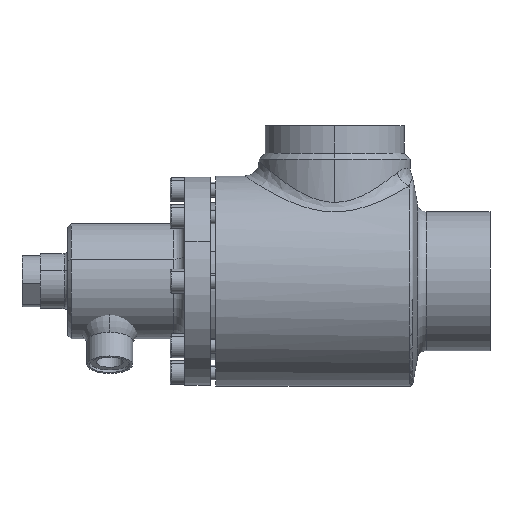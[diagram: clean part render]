
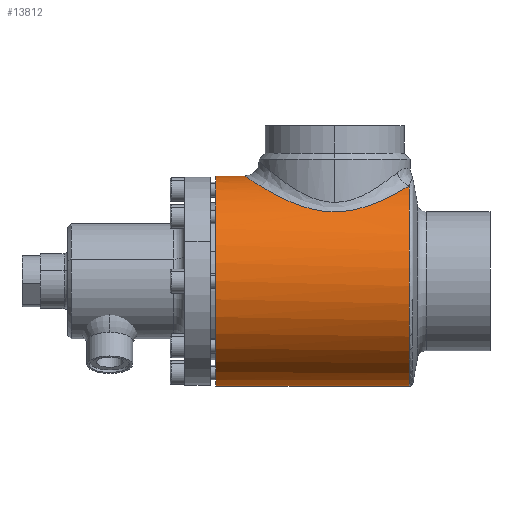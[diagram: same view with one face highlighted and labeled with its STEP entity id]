
A CAD part, left-side view. The second image highlights one B-rep face of the part: STEP entity #13812.
In plain terms, the highlighted cylindrical face has radius 57.5 mm (diameter 115 mm), a partial arc.
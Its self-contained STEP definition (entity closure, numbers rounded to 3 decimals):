
#794 = CARTESIAN_POINT ( 'NONE',  ( 0., 0., -57.5 ) ) ;
#868 = LINE ( 'NONE', #869, #870 ) ;
#869 = CARTESIAN_POINT ( 'NONE',  ( 0., -111., -57.5 ) ) ;
#870 = VECTOR ( 'NONE', #871, 1000. ) ;
#871 = DIRECTION ( 'NONE',  ( 0., 1., 0. ) ) ;
#1278 = CIRCLE ( 'NONE', #1279, 57.5 ) ;
#1279 = AXIS2_PLACEMENT_3D ( 'NONE', #1280, #1281, #1282 ) ;
#1280 = CARTESIAN_POINT ( 'NONE',  ( 0., 0., 0. ) ) ;
#1281 = DIRECTION ( 'NONE',  ( 0., 1., 0. ) ) ;
#1282 = DIRECTION ( 'NONE',  ( 0., 0., 1. ) ) ;
#2484 = CARTESIAN_POINT ( 'NONE',  ( 0., -15.7, 57.5 ) ) ;
#2533 = B_SPLINE_CURVE_WITH_KNOTS ( 'NONE', 3,
 ( #2534, #2535, #2536, #2537, #2538, #2539, #2540, #2541, #2543, #2544, #2545, #2546, #2547, #2548, #2549, #2550, #2551, #2552, #2553, #2554, #2555, #2556, #2557, #2558, #2561, #2562, #2563, #2564, #2565, #2566, #2567, #2568, #2569, #2570, #2571, #2572, #2573, #2574, #2575, #2576, #2577, #2578, #2579, #2580, #2581, #2582, #2583, #2584, #2585, #2586, #2587, #2588, #2589, #2590, #2591, #2592, #2596, #2597, #2598, #2599, #2600, #2601 ),
 .UNSPECIFIED., .F., .F.,
 ( 4, 2, 2, 2, 2, 2, 2, 2, 2, 2, 2, 2, 2, 2, 2, 2, 2, 2, 2, 2, 2, 2, 2, 2, 2, 2, 2, 2, 2, 2, 4 ),
 ( 0., 0.008, 0.016, 0.017, 0.019, 0.023, 0.031, 0.035, 0.039, 0.047, 0.049, 0.05, 0.054, 0.058, 0.06, 0.062, 0.07, 0.074, 0.078, 0.085, 0.089, 0.091, 0.093, 0.101, 0.105, 0.107, 0.109, 0.116, 0.118, 0.12, 0.124 ),
 .UNSPECIFIED. ) ;
#2534 = CARTESIAN_POINT ( 'NONE',  ( -24.174, -105.892, 52.171 ) ) ;
#2535 = CARTESIAN_POINT ( 'NONE',  ( -26.132, -104.39, 51.264 ) ) ;
#2536 = CARTESIAN_POINT ( 'NONE',  ( -27.915, -102.76, 50.305 ) ) ;
#2537 = CARTESIAN_POINT ( 'NONE',  ( -31.195, -99.268, 48.34 ) ) ;
#2538 = CARTESIAN_POINT ( 'NONE',  ( -32.691, -97.405, 47.333 ) ) ;
#2539 = CARTESIAN_POINT ( 'NONE',  ( -34.397, -94.927, 46.079 ) ) ;
#2540 = CARTESIAN_POINT ( 'NONE',  ( -34.73, -94.424, 45.829 ) ) ;
#2541 = CARTESIAN_POINT ( 'NONE',  ( -35.379, -93.402, 45.329 ) ) ;
#2543 = CARTESIAN_POINT ( 'NONE',  ( -35.695, -92.884, 45.08 ) ) ;
#2544 = CARTESIAN_POINT ( 'NONE',  ( -36.613, -91.317, 44.344 ) ) ;
#2545 = CARTESIAN_POINT ( 'NONE',  ( -37.186, -90.253, 43.863 ) ) ;
#2546 = CARTESIAN_POINT ( 'NONE',  ( -38.793, -86.998, 42.466 ) ) ;
#2547 = CARTESIAN_POINT ( 'NONE',  ( -39.716, -84.747, 41.594 ) ) ;
#2548 = CARTESIAN_POINT ( 'NONE',  ( -40.882, -81.225, 40.437 ) ) ;
#2549 = CARTESIAN_POINT ( 'NONE',  ( -41.234, -80.027, 40.077 ) ) ;
#2550 = CARTESIAN_POINT ( 'NONE',  ( -41.862, -77.576, 39.421 ) ) ;
#2551 = CARTESIAN_POINT ( 'NONE',  ( -42.138, -76.319, 39.125 ) ) ;
#2552 = CARTESIAN_POINT ( 'NONE',  ( -42.831, -72.529, 38.37 ) ) ;
#2553 = CARTESIAN_POINT ( 'NONE',  ( -43.12, -69.961, 38.038 ) ) ;
#2554 = CARTESIAN_POINT ( 'NONE',  ( -43.257, -66.692, 37.883 ) ) ;
#2555 = CARTESIAN_POINT ( 'NONE',  ( -43.273, -66.034, 37.864 ) ) ;
#2556 = CARTESIAN_POINT ( 'NONE',  ( -43.282, -64.718, 37.854 ) ) ;
#2557 = CARTESIAN_POINT ( 'NONE',  ( -43.275, -64.063, 37.862 ) ) ;
#2558 = CARTESIAN_POINT ( 'NONE',  ( -43.219, -62.103, 37.926 ) ) ;
#2561 = CARTESIAN_POINT ( 'NONE',  ( -43.137, -60.806, 38.02 ) ) ;
#2562 = CARTESIAN_POINT ( 'NONE',  ( -42.884, -58.229, 38.305 ) ) ;
#2563 = CARTESIAN_POINT ( 'NONE',  ( -42.713, -56.95, 38.496 ) ) ;
#2564 = CARTESIAN_POINT ( 'NONE',  ( -42.391, -55.043, 38.85 ) ) ;
#2565 = CARTESIAN_POINT ( 'NONE',  ( -42.272, -54.408, 38.979 ) ) ;
#2566 = CARTESIAN_POINT ( 'NONE',  ( -42.014, -53.15, 39.257 ) ) ;
#2567 = CARTESIAN_POINT ( 'NONE',  ( -41.875, -52.528, 39.406 ) ) ;
#2568 = CARTESIAN_POINT ( 'NONE',  ( -41.13, -49.446, 40.191 ) ) ;
#2569 = CARTESIAN_POINT ( 'NONE',  ( -40.378, -47.077, 40.957 ) ) ;
#2570 = CARTESIAN_POINT ( 'NONE',  ( -39.022, -43.642, 42.237 ) ) ;
#2571 = CARTESIAN_POINT ( 'NONE',  ( -38.532, -42.517, 42.685 ) ) ;
#2572 = CARTESIAN_POINT ( 'NONE',  ( -37.473, -40.304, 43.618 ) ) ;
#2573 = CARTESIAN_POINT ( 'NONE',  ( -36.908, -39.223, 44.098 ) ) ;
#2574 = CARTESIAN_POINT ( 'NONE',  ( -35.115, -36.073, 45.559 ) ) ;
#2575 = CARTESIAN_POINT ( 'NONE',  ( -33.785, -34.085, 46.562 ) ) ;
#2576 = CARTESIAN_POINT ( 'NONE',  ( -31.574, -31.259, 48.064 ) ) ;
#2577 = CARTESIAN_POINT ( 'NONE',  ( -30.801, -30.343, 48.564 ) ) ;
#2578 = CARTESIAN_POINT ( 'NONE',  ( -29.582, -29.009, 49.309 ) ) ;
#2579 = CARTESIAN_POINT ( 'NONE',  ( -29.166, -28.57, 49.557 ) ) ;
#2580 = CARTESIAN_POINT ( 'NONE',  ( -28.313, -27.708, 50.049 ) ) ;
#2581 = CARTESIAN_POINT ( 'NONE',  ( -27.875, -27.282, 50.294 ) ) ;
#2582 = CARTESIAN_POINT ( 'NONE',  ( -25.646, -25.201, 51.504 ) ) ;
#2583 = CARTESIAN_POINT ( 'NONE',  ( -23.737, -23.688, 52.419 ) ) ;
#2584 = CARTESIAN_POINT ( 'NONE',  ( -20.66, -21.659, 53.671 ) ) ;
#2585 = CARTESIAN_POINT ( 'NONE',  ( -19.599, -21.023, 54.069 ) ) ;
#2586 = CARTESIAN_POINT ( 'NONE',  ( -17.948, -20.134, 54.63 ) ) ;
#2587 = CARTESIAN_POINT ( 'NONE',  ( -17.388, -19.848, 54.811 ) ) ;
#2588 = CARTESIAN_POINT ( 'NONE',  ( -16.247, -19.3, 55.16 ) ) ;
#2589 = CARTESIAN_POINT ( 'NONE',  ( -15.665, -19.037, 55.328 ) ) ;
#2590 = CARTESIAN_POINT ( 'NONE',  ( -12.734, -17.796, 56.125 ) ) ;
#2591 = CARTESIAN_POINT ( 'NONE',  ( -10.302, -17.028, 56.627 ) ) ;
#2592 = CARTESIAN_POINT ( 'NONE',  ( -7.142, -16.371, 57.058 ) ) ;
#2596 = CARTESIAN_POINT ( 'NONE',  ( -6.505, -16.254, 57.135 ) ) ;
#2597 = CARTESIAN_POINT ( 'NONE',  ( -5.216, -16.054, 57.267 ) ) ;
#2598 = CARTESIAN_POINT ( 'NONE',  ( -4.563, -15.969, 57.322 ) ) ;
#2599 = CARTESIAN_POINT ( 'NONE',  ( -2.602, -15.766, 57.456 ) ) ;
#2600 = CARTESIAN_POINT ( 'NONE',  ( -1.298, -15.7, 57.5 ) ) ;
#2601 = CARTESIAN_POINT ( 'NONE',  ( 0., -15.7, 57.5 ) ) ;
#2842 = LINE ( 'NONE', #2843, #2844 ) ;
#2843 = CARTESIAN_POINT ( 'NONE',  ( 0., -111., 57.5 ) ) ;
#2844 = VECTOR ( 'NONE', #2845, 1000. ) ;
#2845 = DIRECTION ( 'NONE',  ( 0., 1., 0. ) ) ;
#3334 = VERTEX_POINT ( 'NONE', #11907 ) ;
#7046 = VERTEX_POINT ( 'NONE', #2484 ) ;
#7254 = EDGE_CURVE ( 'NONE', #7046, #8092, #2842, .T. ) ;
#8092 = VERTEX_POINT ( 'NONE', #12150 ) ;
#9142 = VERTEX_POINT ( 'NONE', #794 ) ;
#9353 = EDGE_CURVE ( 'NONE', #3334, #9142, #868, .T. ) ;
#10055 = EDGE_CURVE ( 'NONE', #9142, #8092, #1278, .T. ) ;
#10409 = ORIENTED_EDGE ( 'NONE', *, *, #10055, .F. ) ;
#11047 = ORIENTED_EDGE ( 'NONE', *, *, #7254, .T. ) ;
#11536 = EDGE_CURVE ( 'NONE', #12374, #7046, #2533, .T. ) ;
#11881 = ORIENTED_EDGE ( 'NONE', *, *, #11536, .T. ) ;
#11907 = CARTESIAN_POINT ( 'NONE',  ( 0., -105.892, -57.5 ) ) ;
#11946 = CARTESIAN_POINT ( 'NONE',  ( -24.174, -105.892, 52.171 ) ) ;
#12150 = CARTESIAN_POINT ( 'NONE',  ( 0., 0., 57.5 ) ) ;
#12166 = CIRCLE ( 'NONE', #12167, 57.5 ) ;
#12167 = AXIS2_PLACEMENT_3D ( 'NONE', #12168, #12169, #12170 ) ;
#12168 = CARTESIAN_POINT ( 'NONE',  ( 0., -105.892, 0. ) ) ;
#12169 = DIRECTION ( 'NONE',  ( 0., 1., 0. ) ) ;
#12170 = DIRECTION ( 'NONE',  ( 0., 0., -1. ) ) ;
#12374 = VERTEX_POINT ( 'NONE', #11946 ) ;
#12587 = EDGE_CURVE ( 'NONE', #3334, #12374, #12166, .T. ) ;
#12939 = ORIENTED_EDGE ( 'NONE', *, *, #12587, .T. ) ;
#13209 = FACE_OUTER_BOUND ( 'NONE', #13792, .T. ) ;
#13210 = CYLINDRICAL_SURFACE ( 'NONE', #13211, 57.5 ) ;
#13211 = AXIS2_PLACEMENT_3D ( 'NONE', #13212, #13213, #13214 ) ;
#13212 = CARTESIAN_POINT ( 'NONE',  ( 0., -111., 0. ) ) ;
#13213 = DIRECTION ( 'NONE',  ( 0., 1., 0. ) ) ;
#13214 = DIRECTION ( 'NONE',  ( 0., 0., 1. ) ) ;
#13427 = ORIENTED_EDGE ( 'NONE', *, *, #9353, .F. ) ;
#13792 = EDGE_LOOP ( 'NONE', ( #13427, #12939, #11881, #11047, #10409 ) ) ;
#13812 = ADVANCED_FACE ( 'NONE', ( #13209 ), #13210, .T. ) ;
